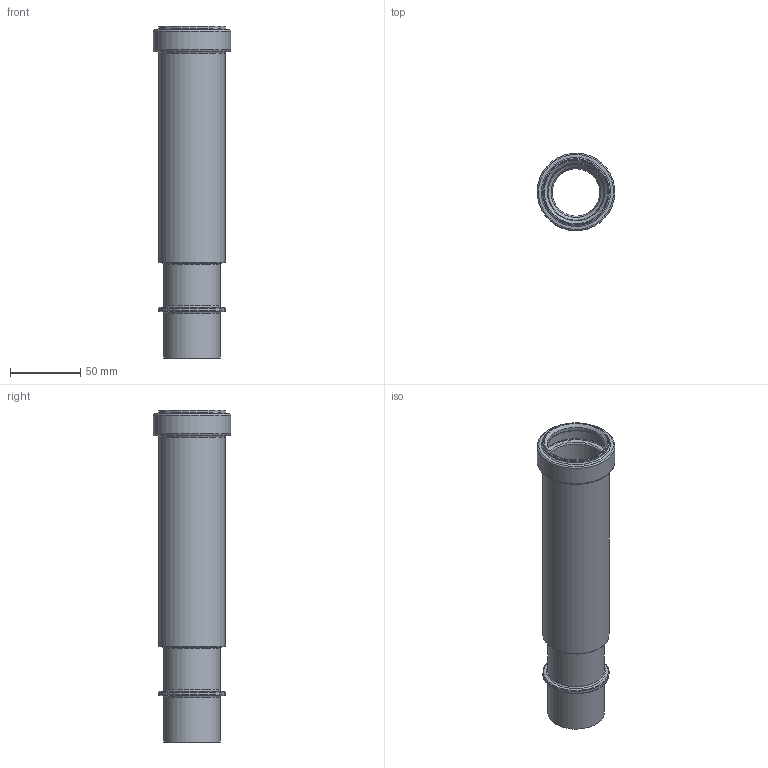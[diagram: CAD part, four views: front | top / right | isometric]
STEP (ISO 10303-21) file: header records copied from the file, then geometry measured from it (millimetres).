
FILE_DESCRIPTION(/* description */ (''),/* implementation_level */ '2;1');
FILE_NAME(/* name */ 'C:\Planerdaten\Export PLA\360.700.16.1\stp\360700.stp',/* time_stamp */ '2020-07-07T08:48:43+02:00',/* author */ ('JANAN'),/* organization */ (''),/* preprocessor_version */ 'ST-DEVELOPER v16.13',/* originating_system */ 'Autodesk Inventor 2018',/* authorisation */ '');
FILE_SCHEMA (('AUTOMOTIVE_DESIGN { 1 0 10303 214 3 1 1 }'));
Length unit declared in the file: millimetre
Products named in the file (1): Langmuffe m/Doppelbund PE-HD d40
Bounding box: 55.28 x 55.28 x 236.75 mm (x, y, z)
Volume: 105413.2 mm3; surface area: 66957 mm2
Topology: 1 solids, 1 shells, 38 faces, 85 edges, 49 vertices
Faces by surface type: torus 17, cylinder 10, cone 9, plane 2
Full cylindrical faces by diameter (mm): 33.9 x1, 40.2 x2, 40.9 x1, 41.15 x1, 47.2 x2, 47.45 x1, 49 x1, 55.3 x1
Entity records: 839 total; most frequent: DIRECTION 154, CARTESIAN_POINT 115, AXIS2_PLACEMENT_3D 77, EDGE_LOOP 76, ORIENTED_EDGE 76, STYLED_ITEM 39, FACE_BOUND 38, FACE_OUTER_BOUND 38
